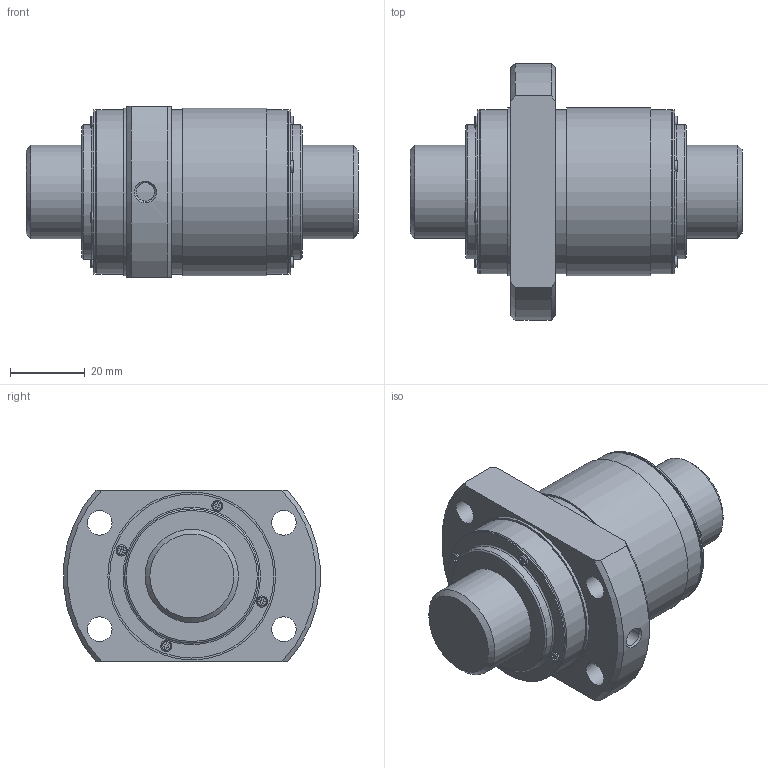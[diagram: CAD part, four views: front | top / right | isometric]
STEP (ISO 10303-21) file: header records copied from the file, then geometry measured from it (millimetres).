
FILE_DESCRIPTION(/* description */ ('STEP AP203'),/* implementation_level */ '2;1');
FILE_NAME(/* name */ 'WTF2550-2ZZ+89LC7T_000_rev',/* time_stamp */ '2025-06-11T06:40:11+02:00',/* author */ ('License CC BY-ND 4.0'),/* organization */ ('CADENAS'),/* preprocessor_version */ 'ST-DEVELOPER v19.3',/* originating_system */ 'PARTsolutions',/* authorisation */ ' ');
FILE_SCHEMA (('CONFIG_CONTROL_DESIGN'));
Length unit declared in the file: millimetre
Products named in the file (3): WTF2550-2ZZ+89LC7T_000_rev; WTF2550-20ZZ0 Shaft; WTF2550-2ZZ Nut
Assembly tree (2 placements, depth 2):
  WTF2550-2ZZ+89LC7T_000_rev
    WTF2550-20ZZ0 Shaft
    WTF2550-2ZZ Nut
Bounding box: 89 x 68.89 x 46 mm (x, y, z)
Volume: 117468.2 mm3; surface area: 27400.8 mm2
Topology: 2 solids, 2 shells, 206 faces, 515 edges, 338 vertices
Faces by surface type: plane 127, cylinder 58, torus 12, cone 9
Full cylindrical faces by diameter (mm): 3 x8, 4.917 x1, 6.6 x4, 25 x2, 36 x2, 44 x5, 45 x2
Entity records: 6035 total; most frequent: CARTESIAN_POINT 1063, DIRECTION 1016, ORIENTED_EDGE 946, EDGE_CURVE 473, AXIS2_PLACEMENT_3D 344, VERTEX_POINT 337, LINE 328, VECTOR 328
